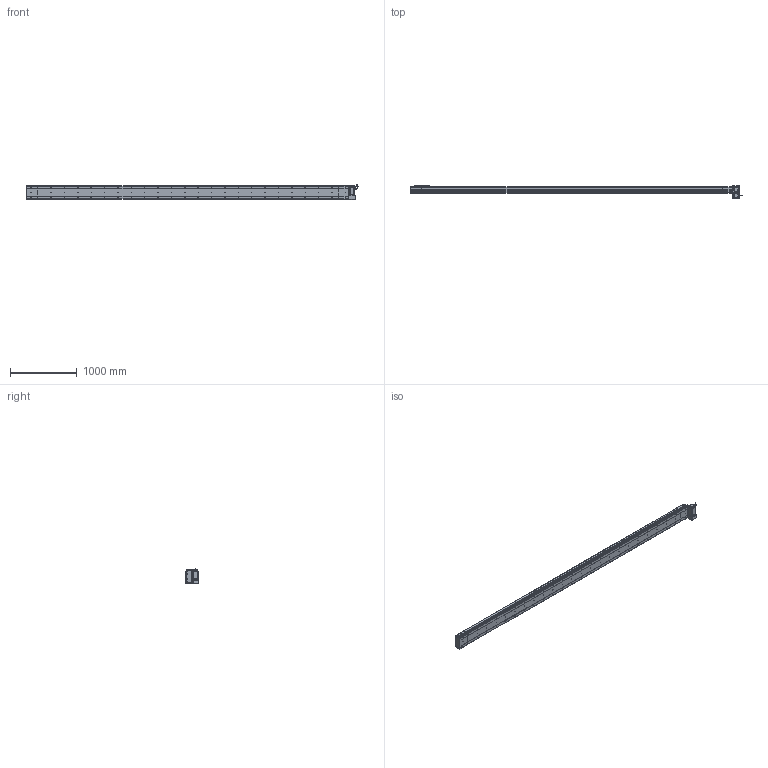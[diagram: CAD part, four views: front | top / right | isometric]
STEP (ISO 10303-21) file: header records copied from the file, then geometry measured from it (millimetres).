
FILE_DESCRIPTION (( 'STEP AP214' ), '1' );
FILE_NAME ('D20 CBH RU S4500.STEP', '2010-06-30T11:38:25', ( 'Conseil Régional Haute-Normandie' ), ( 'Conseil Régional Haute-Normandie' ), 'SwSTEP 2.0', 'SolidWorks 2010', '' );
FILE_SCHEMA (( 'AUTOMOTIVE_DESIGN' ));
Length unit declared in the file: millimetre
Products named in the file (31): codeur 90BLDC125-640; Support moteur RU_Default; D20 CBH RU S4500; Corp Tail D20 RU_Default; Plaque De Serrage D20 RU_Default; avant 90BLDC125A-640; Chariot D20_Default; Support Chariot D20_Default; Couvercle S4500_Default; Corp S4500_Default; Corp D20 S4500_Default; Glissiere_Default; Corp Tail D20+100_Default; Tail D20+100_Default; vis M5 L15_Default; Plaque De Serrage D20_Default; Plaque de Bout Tail D20_Default; Couvercle_Default; Conecteur_Default; vis M5 L30_Default; Head RU_Default; corps 90BLDC125A-640; Moteur motionking 90BLDC125A-640; Couvercle RU_Default; vis M5 L47_Default; Plaque de Bout Head D20 RU_Default; Conecteur2_Default; ecrou_Default; Cache Support Moteur RU_Default; Rondelle Cache D20 RU_Default
Assembly tree (66 placements, depth 4):
  D20 CBH RU S4500
    Tail D20+100_Default
      Corp Tail D20+100_Default
      vis M5 L15_Default  x6
      Couvercle_Default
      Plaque de Bout Tail D20_Default
      Plaque De Serrage D20_Default
    Head RU_Default
      Rondelle Cache D20 RU_Default  x3
      vis M5 L15_Default  x12
      Moteur motionking 90BLDC125A-640
        avant 90BLDC125A-640
        codeur 90BLDC125-640
        Conecteur_Default
        Conecteur2_Default
        corps 90BLDC125A-640
      Plaque de Bout Head D20 RU_Default
      vis M5 L47_Default  x4
      ecrou_Default  x4
      Cache Support Moteur RU_Default
      vis M5 L30_Default  x4
      Corp Tail D20 RU_Default
      Support moteur RU_Default
      Plaque De Serrage D20 RU_Default
      Couvercle RU_Default
    Chariot D20_Default
      vis M5 L15_Default  x8
      Support Chariot D20_Default
      Chariot D20_Default
      Glissiere_Default
    Corp D20 S4500_Default
      Couvercle S4500_Default
      Corp S4500_Default
Bounding box: 4964.45 x 209 x 229.7 mm (x, y, z)
Volume: 32716786.2 mm3; surface area: 6212111.9 mm2
Topology: 103 solids, 103 shells, 3889 faces, 9650 edges, 6274 vertices
Faces by surface type: plane 2138, bspline 806, cylinder 782, torus 91, cone 68, sphere 4
Entity records: 162694 total; most frequent: CARTESIAN_POINT 82851, ORIENTED_EDGE 15768, DIRECTION 12258, EDGE_CURVE 7884, VERTEX_POINT 5218, VECTOR 5032, LINE 5032, AXIS2_PLACEMENT_3D 3613
